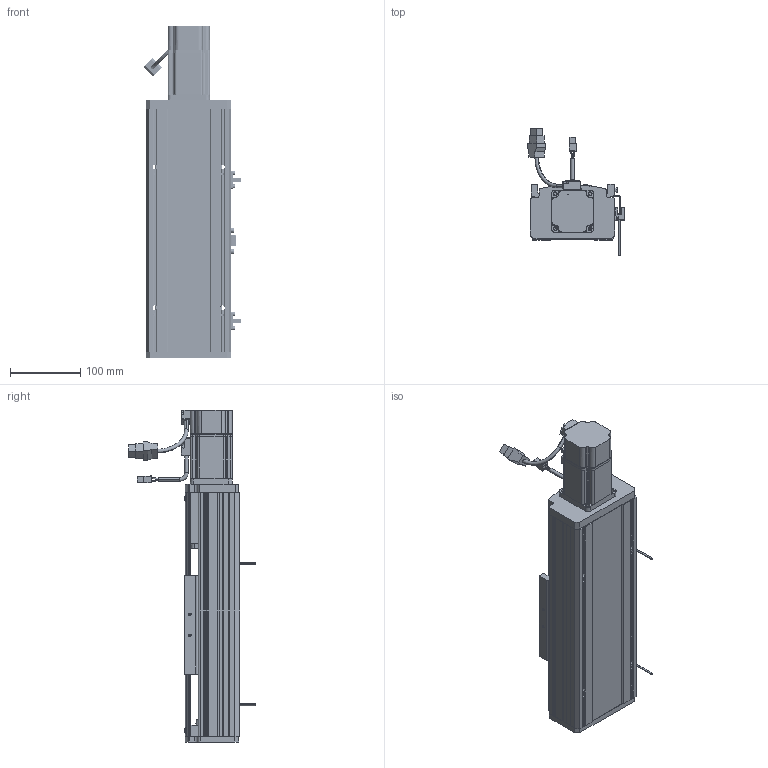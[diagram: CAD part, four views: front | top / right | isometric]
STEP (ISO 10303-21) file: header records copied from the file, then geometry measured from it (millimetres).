
FILE_DESCRIPTION (( 'STEP AP214' ), '1' );
FILE_NAME ('CTH120-100.STEP', '2019-11-20T02:31:34', ( '微软用户' ), ( '微软中国' ), 'SwSTEP 2.0', 'SolidWorks 2017', '' );
FILE_SCHEMA (( 'AUTOMOTIVE_DESIGN' ));
Length unit declared in the file: millimetre
Products named in the file (33): 120模组-底座_默认<按加工>; EGH15-CA; EGH15_RAIL; CTH120-100; 珨极宒粣創釱; 遣喳蝶15x12x8; M4-L10囀鞠褒蹟佪; M4-L22囀鞠褒蹟佪; 7001-DB; 7001; 噩砃EGH15-CA; 粣創揤啣; M3-L8囀鞠褒蹟佪; COL12B-粣遠; CT12耀郪-覜茼んえ; 坶踡蹟譫; EE-SX672-BR; 120耀郪-粣創釱; M4-L6半圆头内六角螺丝; 120耀郪-傷啣; M5-L20囀鞠褒蹟佪; 120模组-盖子_默认<按加工>; M5-L12囀鞠褒蹟佪; 120耀郪-侜督儂啣; 怢湛200W侜督萇儂ECMA-CX0602ES; SFH1605; 盓傅釱蚾饜极; 136蹟簽蟀諉輸; 6000; 120模组-移动座_默认<按加工>; 120耀郪-盓傅釱; SFH1605-450; M4-L16囀鞠褒蹟佪
Assembly tree (90 placements, depth 4):
  CTH120-100
    120模组-底座_默认<按加工>
    SFH1605-450
    120模组-移动座_默认<按加工>
    136蹟簽蟀諉輸
    SFH1605
    120耀郪-侜督儂啣
    120模组-盖子_默认<按加工>
    120耀郪-傷啣
    珨极宒粣創釱
      120耀郪-粣創釱
      坶踡蹟譫
      COL12B-粣遠  x2
      粣創揤啣
      7001-DB
        7001  x2
      M4-L22囀鞠褒蹟佪  x6
      M4-L10囀鞠褒蹟佪  x4
      遣喳蝶15x12x8
    EGH15_RAIL  x2
    EGH15-CA  x2
    M4-L16囀鞠褒蹟佪  x8
    M4-L10囀鞠褒蹟佪  x22
    盓傅釱蚾饜极
      120耀郪-盓傅釱
      6000
      遣喳蝶15x12x8  x2
      M4-L22囀鞠褒蹟佪  x2
    怢湛200W侜督萇儂ECMA-CX0602ES
    M5-L12囀鞠褒蹟佪  x3
    M5-L20囀鞠褒蹟佪  x4
    M4-L6半圆头内六角螺丝  x4
    EE-SX672-BR  x2
    CT12耀郪-覜茼んえ
    M3-L8囀鞠褒蹟佪  x4
    噩砃EGH15-CA  x2
Bounding box: 137.94 x 179.67 x 472 mm (x, y, z)
Volume: 2189255.5 mm3; surface area: 635217.6 mm2
Topology: 87 solids, 96 shells, 4944 faces, 12899 edges, 8229 vertices
Faces by surface type: plane 2731, cylinder 1370, cone 509, bspline 241, torus 81, sphere 12
Entity records: 100436 total; most frequent: CARTESIAN_POINT 29106, ORIENTED_EDGE 14836, DIRECTION 13639, EDGE_CURVE 7418, VERTEX_POINT 4863, AXIS2_PLACEMENT_3D 4589, LINE 4461, VECTOR 4461
